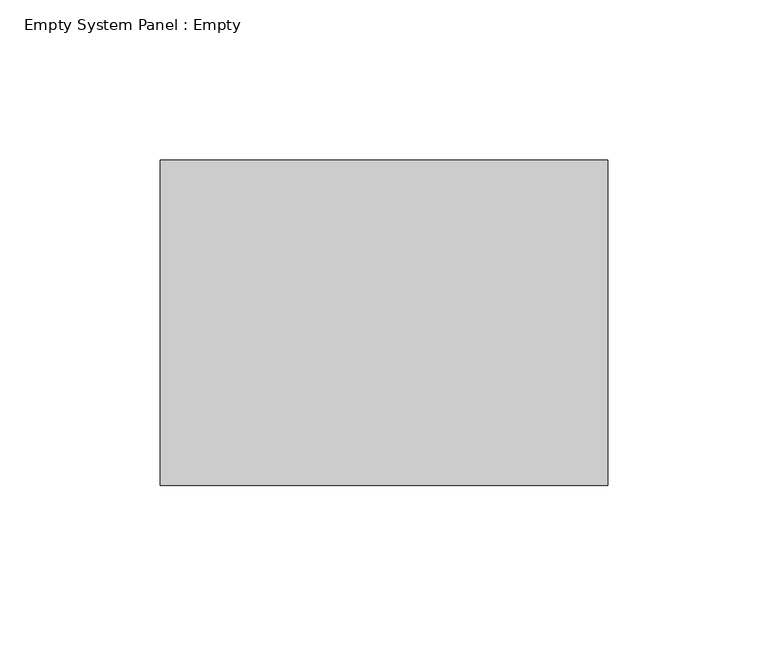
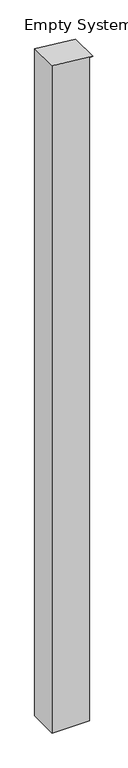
"""IFC4 building model written with IfcOpenShell, lengths in millimetres: plate geometry, Empty System Panel : Empty."""

from ifc_helpers import new_model, si_unit, frame, origin, place, context, project, spatial, polyline, outline, extrude, source, transform, mapped, element, save


def empty_system_panel_empty_e8afaefd(model_context):
    return source(origin(), model_context, "Body", "SweptSolid", [
        extrude(outline(polyline([(0.0, -69.85), (0.0, 57.15), (2383.3977927, 57.15), (2383.3977927, 69.85), (2399.0229827, -69.85), (0.0, -69.85)])), frame((0.0, -50.8, 0.0), z_axis=(0.0, 1.0, 0.0), x_axis=(0.0, 0.0, 1.0)), (0.0, 0.0, 1.0), 101.6),
    ])


if __name__ == "__main__":
    model = new_model("IFC4")
    model_context = context("Model", 3, world=origin())
    ifc_project = project(units=[si_unit("LENGTHUNIT", "METRE", prefix="MILLI")], contexts=[model_context])
    site = spatial("IfcSite", under=ifc_project)
    building = spatial("IfcBuilding", under=site)
    placement = place(None, origin())
    empty_system_panel_empty_shape = empty_system_panel_empty_e8afaefd(model_context)
    element("IfcPlate", 1, ObjectType="Empty System Panel : Empty", at=placement, inside=building, context=model_context, shape_type="MappedRepresentation", body=[
        mapped(empty_system_panel_empty_shape, transform((0.0, 0.0, 0.0), x_axis=(1.0, 0.0, 0.0), y_axis=(0.0, 1.0, 0.0), z_axis=(0.0, 0.0, 1.0))),
    ])
    save(model, "model.ifc")
